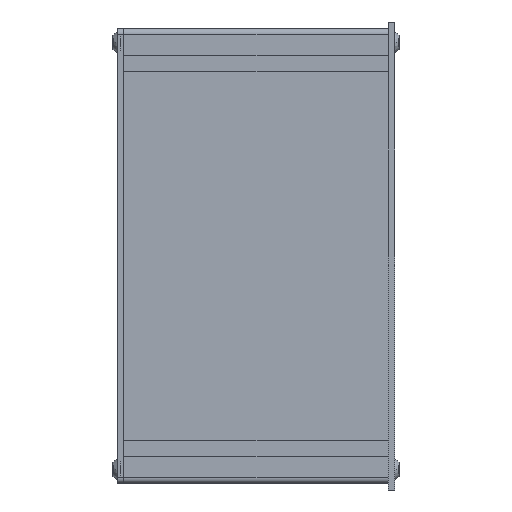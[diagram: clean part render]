
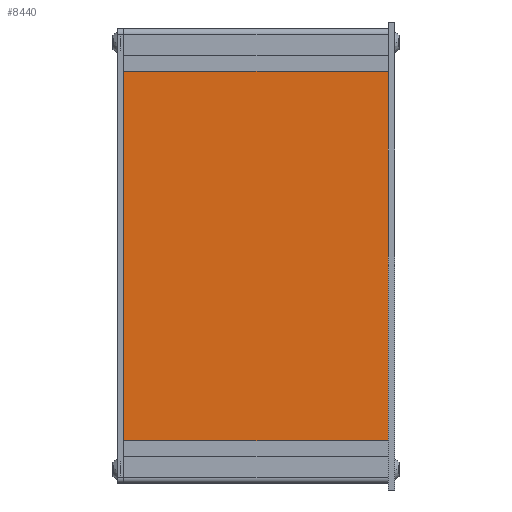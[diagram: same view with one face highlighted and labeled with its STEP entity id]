
A CAD part, left-side view. The second image highlights one B-rep face of the part: STEP entity #8440.
In plain terms, the highlighted planar face has unit normal (-1, 0, 0).
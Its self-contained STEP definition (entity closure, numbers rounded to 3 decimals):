
#932=PLANE('',#9294);
#1230=FACE_OUTER_BOUND('',#1760,.T.);
#1760=EDGE_LOOP('',(#6487,#6488,#6489,#6490));
#2504=LINE('',#13370,#3182);
#2514=LINE('',#13391,#3192);
#2515=LINE('',#13393,#3193);
#2516=LINE('',#13394,#3194);
#3182=VECTOR('',#10716,10.);
#3192=VECTOR('',#10734,10.);
#3193=VECTOR('',#10735,10.);
#3194=VECTOR('',#10736,10.);
#4160=VERTEX_POINT('',#13363);
#4163=VERTEX_POINT('',#13368);
#4170=VERTEX_POINT('',#13390);
#4171=VERTEX_POINT('',#13392);
#4995=EDGE_CURVE('',#4160,#4163,#2504,.T.);
#5005=EDGE_CURVE('',#4160,#4170,#2514,.T.);
#5006=EDGE_CURVE('',#4171,#4163,#2515,.T.);
#5007=EDGE_CURVE('',#4170,#4171,#2516,.T.);
#6487=ORIENTED_EDGE('',*,*,#5005,.F.);
#6488=ORIENTED_EDGE('',*,*,#4995,.T.);
#6489=ORIENTED_EDGE('',*,*,#5006,.F.);
#6490=ORIENTED_EDGE('',*,*,#5007,.F.);
#8440=ADVANCED_FACE('',(#1230),#932,.T.);
#9294=AXIS2_PLACEMENT_3D('',#13389,#10732,#10733);
#10716=DIRECTION('',(0.,1.,0.));
#10732=DIRECTION('center_axis',(-1.,0.,0.));
#10733=DIRECTION('ref_axis',(0.,0.,1.));
#10734=DIRECTION('',(0.,0.,-1.));
#10735=DIRECTION('',(0.,0.,1.));
#10736=DIRECTION('',(0.,1.,0.));
#13363=CARTESIAN_POINT('',(239.,0.,25.8));
#13368=CARTESIAN_POINT('',(239.,100.,25.8));
#13370=CARTESIAN_POINT('',(239.,0.,25.8));
#13389=CARTESIAN_POINT('Origin',(239.,0.,-113.9));
#13390=CARTESIAN_POINT('',(239.,0.,-113.9));
#13391=CARTESIAN_POINT('',(239.,0.,-44.05));
#13392=CARTESIAN_POINT('',(239.,100.,-113.9));
#13393=CARTESIAN_POINT('',(239.,100.,-44.05));
#13394=CARTESIAN_POINT('',(239.,0.,-113.9));
